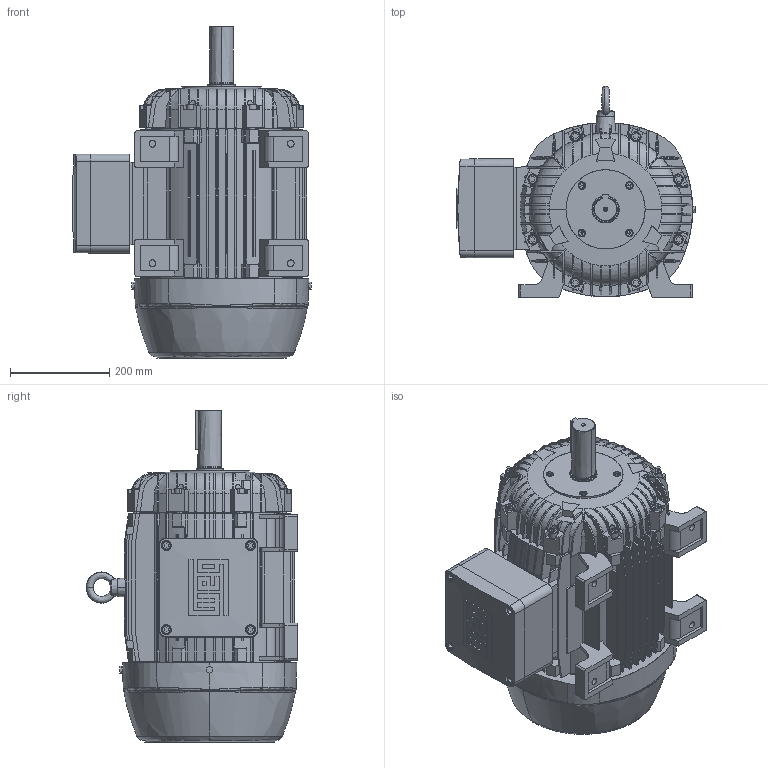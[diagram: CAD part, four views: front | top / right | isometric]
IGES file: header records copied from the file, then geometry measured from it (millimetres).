
Start section: SolidWorks IGES file using analytic representation for surfaces
Global section: file name: Y:\NEMA\EXPLOSION_PROOF_MOTOR\10_FRAME_284T\STANDARD\IGS\284T_LEFT.IGS; native system: SolidWorks 2009; preprocessor: SolidWorks 2009; author: carlosd; date: 110301.111933; units: millimetre
Bounding box: 482.5 x 426.8 x 670.68 mm (x, y, z)
Surface area: 2435399.1 mm2 (no closed solid volume)
Topology: 0 solids, 0 shells, 1727 faces, 20996 edges, 20953 vertices
Faces by surface type: bspline 1325, revolution 402
